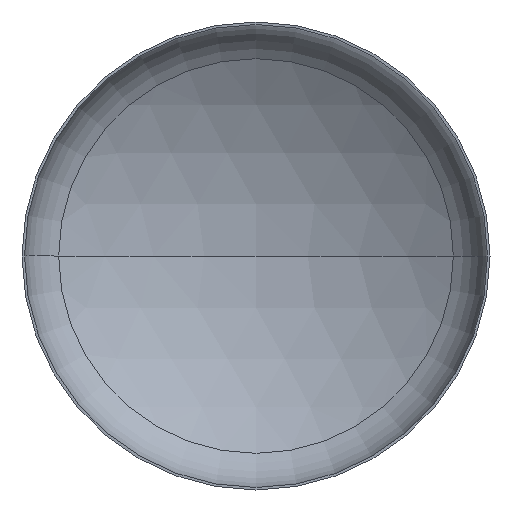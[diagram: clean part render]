
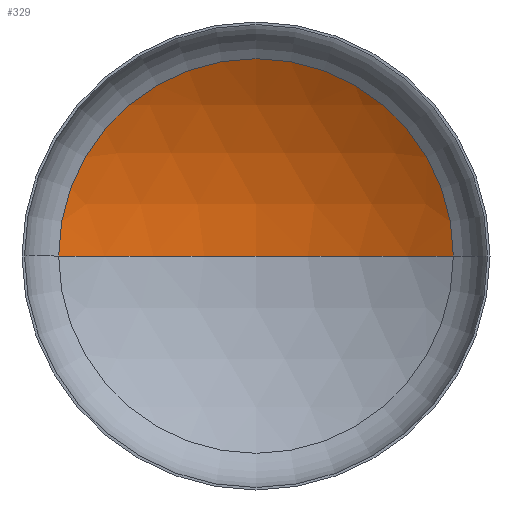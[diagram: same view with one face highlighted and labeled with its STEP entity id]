
A CAD part, front view. The second image highlights one B-rep face of the part: STEP entity #329.
In plain terms, the highlighted spherical face has radius 1920 mm.
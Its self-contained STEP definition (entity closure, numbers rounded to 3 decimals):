
#4 = AXIS2_PLACEMENT_3D ( 'NONE', #113, #400, #365 ) ;
#14 = EDGE_LOOP ( 'NONE', ( #163, #93, #151 ) ) ;
#35 = AXIS2_PLACEMENT_3D ( 'NONE', #204, #208, #190 ) ;
#36 = CARTESIAN_POINT ( 'NONE',  ( 1012.026, 354.428, 0. ) ) ;
#37 = AXIS2_PLACEMENT_3D ( 'NONE', #285, #224, #221 ) ;
#38 = AXIS2_PLACEMENT_3D ( 'NONE', #179, #196, #197 ) ;
#63 = EDGE_CURVE ( 'NONE', #246, #85, #279, .T. ) ;
#65 = EDGE_CURVE ( 'NONE', #156, #246, #393, .T. ) ;
#67 = EDGE_CURVE ( 'NONE', #156, #85, #271, .T. ) ;
#85 = VERTEX_POINT ( 'NONE', #192 ) ;
#93 = ORIENTED_EDGE ( 'NONE', *, *, #65, .T. ) ;
#113 = CARTESIAN_POINT ( 'NONE',  ( 0., -1277.198, 0. ) ) ;
#151 = ORIENTED_EDGE ( 'NONE', *, *, #63, .T. ) ;
#156 = VERTEX_POINT ( 'NONE', #251 ) ;
#163 = ORIENTED_EDGE ( 'NONE', *, *, #67, .F. ) ;
#168 = SPHERICAL_SURFACE ( 'NONE', #4, 1920. ) ;
#179 = CARTESIAN_POINT ( 'NONE',  ( 0., 354.428, 0. ) ) ;
#190 = DIRECTION ( 'NONE',  ( 1., 0., 0. ) ) ;
#192 = CARTESIAN_POINT ( 'NONE',  ( -1012.026, 354.428, 0. ) ) ;
#196 = DIRECTION ( 'NONE',  ( 0., -1., 0. ) ) ;
#197 = DIRECTION ( 'NONE',  ( 1., 0., 0. ) ) ;
#204 = CARTESIAN_POINT ( 'NONE',  ( 0., -1277.198, 0. ) ) ;
#208 = DIRECTION ( 'NONE',  ( 0., 0., 1. ) ) ;
#221 = DIRECTION ( 'NONE',  ( -1., 0., 0. ) ) ;
#224 = DIRECTION ( 'NONE',  ( 0., 0., -1. ) ) ;
#246 = VERTEX_POINT ( 'NONE', #36 ) ;
#251 = CARTESIAN_POINT ( 'NONE',  ( 0., 642.802, 0. ) ) ;
#271 = CIRCLE ( 'NONE', #35, 1920. ) ;
#279 = CIRCLE ( 'NONE', #38, 1012.026 ) ;
#285 = CARTESIAN_POINT ( 'NONE',  ( 0., -1277.198, 0. ) ) ;
#329 = ADVANCED_FACE ( 'NONE', ( #366 ), #168, .F. ) ;
#365 = DIRECTION ( 'NONE',  ( -1., 0., 0. ) ) ;
#366 = FACE_OUTER_BOUND ( 'NONE', #14, .T. ) ;
#393 = CIRCLE ( 'NONE', #37, 1920. ) ;
#400 = DIRECTION ( 'NONE',  ( 0., 0., -1. ) ) ;
